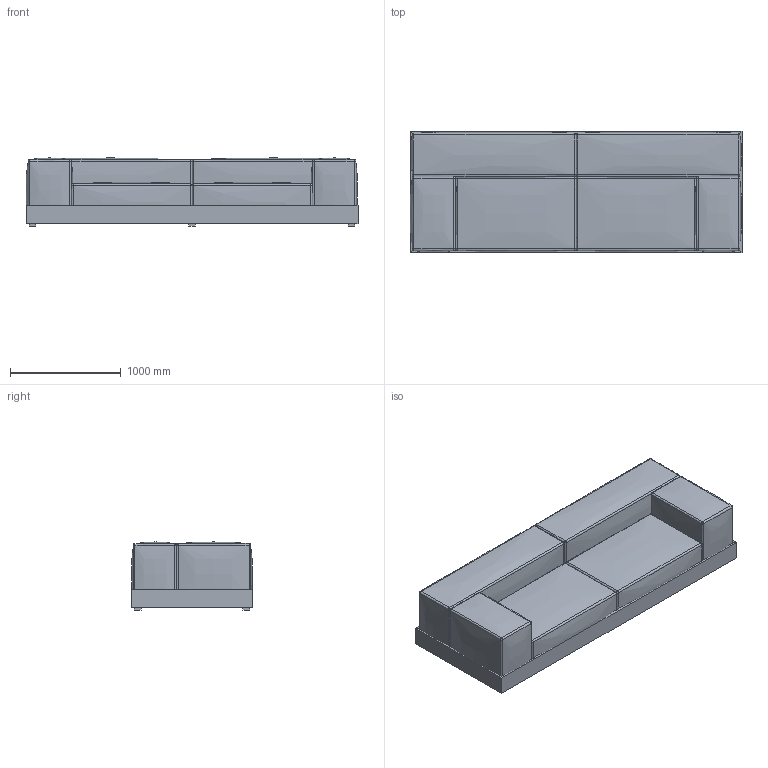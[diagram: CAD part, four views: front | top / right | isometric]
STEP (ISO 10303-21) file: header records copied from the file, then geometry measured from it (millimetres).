
FILE_DESCRIPTION(/* description */ (''),/* implementation_level */ '2;1');
FILE_NAME(/* name */ 'Polp1 300 brc.step',/* time_stamp */ '2024-01-07T10:25:50+01:00',/* author */ (''),/* organization */ (''),/* preprocessor_version */ 'ST-DEVELOPER v20',/* originating_system */ 'Autodesk Translation Framework v12.14.0.127',/* authorisation */ '');
FILE_SCHEMA (('AUTOMOTIVE_DESIGN { 1 0 10303 214 3 1 1 }'));
Length unit declared in the file: millimetre
Products named in the file (7): Polp1 300 brc; Component1; Component2; Component3; Component4; Component9; Component10
Assembly tree (6 placements, depth 2):
  Polp1 300 brc
    Component1
    Component2
    Component3
    Component4
    Component9
    Component10
Bounding box: 3000 x 1100 x 615 mm (x, y, z)
Volume: 1535570408.5 mm3; surface area: 24590100.9 mm2
Topology: 22 solids, 22 shells, 252 faces, 480 edges, 272 vertices
Faces by surface type: plane 112, bspline 78, sphere 48, cylinder 14
Entity records: 15227 total; most frequent: CARTESIAN_POINT 10355, ORIENTED_EDGE 960, DIRECTION 882, EDGE_CURVE 480, AXIS2_PLACEMENT_3D 331, VERTEX_POINT 272, FACE_OUTER_BOUND 252, EDGE_LOOP 252
